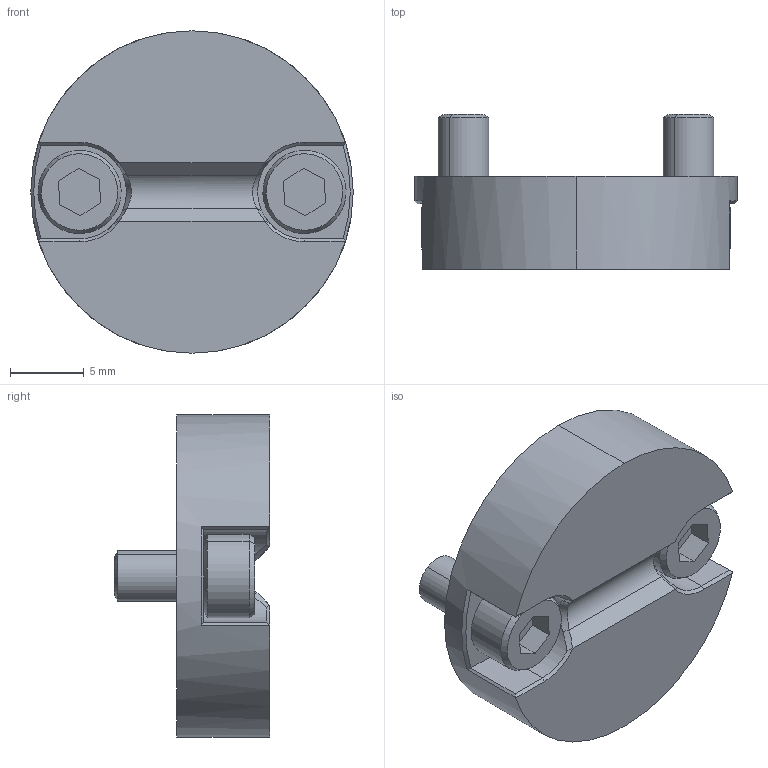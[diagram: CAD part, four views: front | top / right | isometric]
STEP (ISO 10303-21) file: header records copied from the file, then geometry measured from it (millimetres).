
FILE_DESCRIPTION (( 'STEP AP203' ), '1' );
FILE_NAME ('SRTC-80.STEP', '2012-09-12T23:23:38', ( '' ), ( '' ), 'SwSTEP 2.0', 'SolidWorks 2010', '' );
FILE_SCHEMA (( 'CONFIG_CONTROL_DESIGN' ));
Length unit declared in the file: inch
Products named in the file (3): SRTC-80_SHCS; SRTC-80
Assembly tree (3 placements, depth 2):
  SRTC-80
    SRTC-80
    SRTC-80_SHCS  x2
Bounding box: 21.84 x 10.52 x 21.84 mm (x, y, z)
Volume: 2223.4 mm3; surface area: 1622.7 mm2
Topology: 3 solids, 3 shells, 80 faces, 190 edges, 120 vertices
Faces by surface type: plane 39, cone 18, cylinder 17, bspline 6
Entity records: 2223 total; most frequent: CARTESIAN_POINT 512, ORIENTED_EDGE 296, DIRECTION 274, EDGE_CURVE 148, AXIS2_PLACEMENT_3D 102, VERTEX_POINT 94, LINE 70, VECTOR 70
